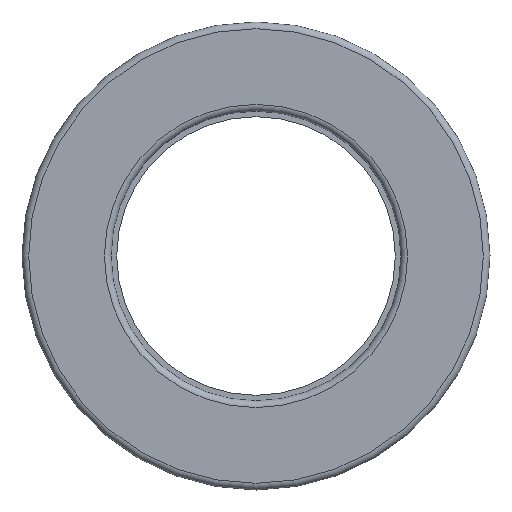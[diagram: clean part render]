
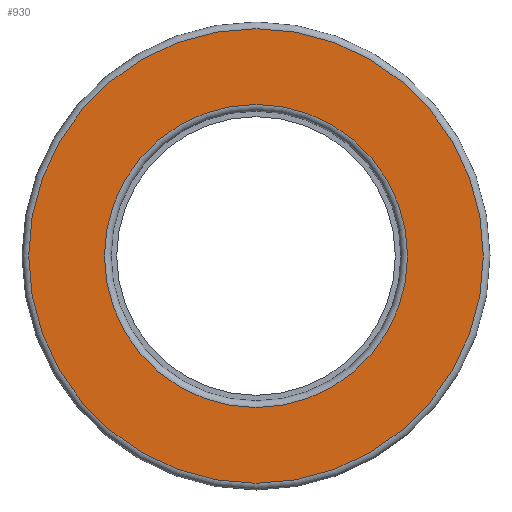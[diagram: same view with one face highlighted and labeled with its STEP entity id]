
A CAD part, front view. The second image highlights one B-rep face of the part: STEP entity #930.
In plain terms, the highlighted planar face has unit normal (0, -1, 0).
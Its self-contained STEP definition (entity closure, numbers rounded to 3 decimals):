
#267=PLANE('',#989);
#313=FACE_BOUND('',#400,.T.);
#346=FACE_OUTER_BOUND('',#399,.T.);
#399=EDGE_LOOP('',(#697));
#400=EDGE_LOOP('',(#698));
#481=CIRCLE('',#988,13.6);
#482=CIRCLE('',#990,20.4);
#499=VERTEX_POINT('',#1347);
#500=VERTEX_POINT('',#1350);
#581=EDGE_CURVE('',#499,#499,#481,.T.);
#582=EDGE_CURVE('',#500,#500,#482,.T.);
#697=ORIENTED_EDGE('',*,*,#582,.F.);
#698=ORIENTED_EDGE('',*,*,#581,.T.);
#930=ADVANCED_FACE('',(#346,#313),#267,.T.);
#988=AXIS2_PLACEMENT_3D('',#1348,#1080,#1081);
#989=AXIS2_PLACEMENT_3D('',#1349,#1082,#1083);
#990=AXIS2_PLACEMENT_3D('',#1351,#1084,#1085);
#1080=DIRECTION('center_axis',(0.,1.,0.));
#1081=DIRECTION('ref_axis',(1.,0.,0.));
#1082=DIRECTION('center_axis',(0.,-1.,0.));
#1083=DIRECTION('ref_axis',(0.,0.,-1.));
#1084=DIRECTION('center_axis',(0.,1.,0.));
#1085=DIRECTION('ref_axis',(1.,0.,0.));
#1347=CARTESIAN_POINT('',(-13.6,-5.5,0.));
#1348=CARTESIAN_POINT('Origin',(0.,-5.5,0.));
#1349=CARTESIAN_POINT('Origin',(-20.4,-5.5,0.));
#1350=CARTESIAN_POINT('',(-20.4,-5.5,0.));
#1351=CARTESIAN_POINT('Origin',(0.,-5.5,0.));
